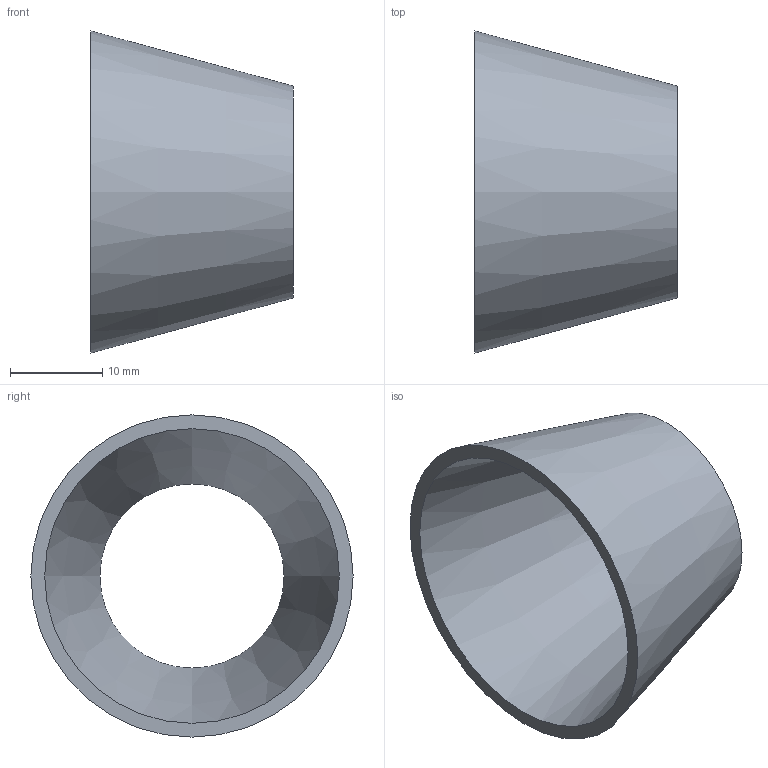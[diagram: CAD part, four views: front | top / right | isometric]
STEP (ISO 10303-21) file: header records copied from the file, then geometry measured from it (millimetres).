
FILE_DESCRIPTION(('FreeCAD Model'),'2;1');
FILE_NAME( '/home/martin/Documents/proyect/accesorios/stp/red-con_DN32-20.step', '2017-12-31T12:22:57',('Author'),(''), 'Open CASCADE STEP processor 6.8','FreeCAD','Unknown');
FILE_SCHEMA(('AUTOMOTIVE_DESIGN_CC2 { 1 2 10303 214 -1 1 5 4 }'));
Length unit declared in the file: millimetre
Products named in the file (1): red-con_DN32-20
Bounding box: 22 x 35 x 35 mm (x, y, z)
Volume: 2851 mm3; surface area: 4199.3 mm2
Topology: 1 solids, 1 shells, 4 faces, 6 edges, 4 vertices
Faces by surface type: cone 2, plane 2
Entity records: 191 total; most frequent: CARTESIAN_POINT 33, DIRECTION 26, ORIENTED_EDGE 12, PCURVE 12, DEFINITIONAL_REPRESENTATION 12, AXIS2_PLACEMENT_3D 9, CIRCLE 8, FACE_BOUND 6
